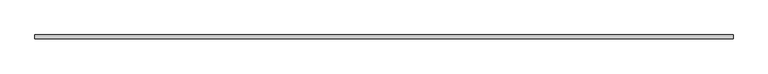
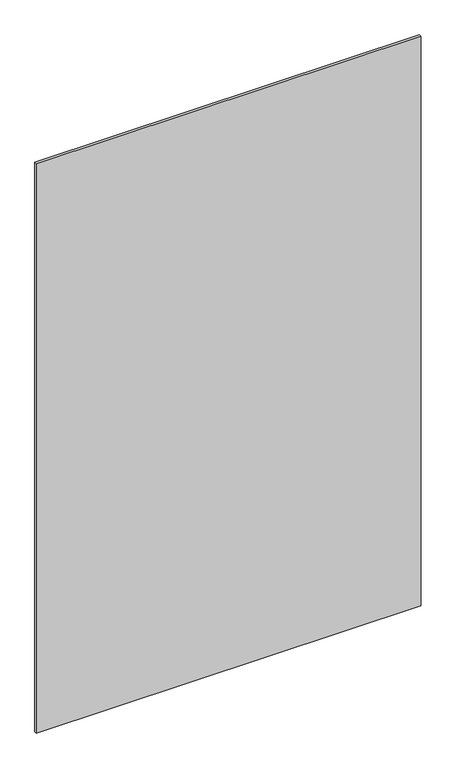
"""IFC4 building model written with IfcOpenShell, lengths in millimetres: plate geometry, 系統嵌板 : 玻璃 1.0cm."""

from ifc_helpers import new_model, si_unit, origin, origin_with_axes, place, context, project, spatial, polyline, outline, extrude, source, transform, mapped, element, save


def plate_d439ce56(model_context):
    return source(origin(), model_context, "Body", "SweptSolid", [
        extrude(outline(polyline([(887.5, -5.0), (-887.5, -5.0), (-887.5, 5.0), (887.5, 5.0), (887.5, -5.0)])), origin_with_axes(), (0.0, 0.0, 1.0), 2775.0),
    ])


if __name__ == "__main__":
    model = new_model("IFC4")
    model_context = context("Model", 3, world=origin())
    ifc_project = project(units=[si_unit("LENGTHUNIT", "METRE", prefix="MILLI")], contexts=[model_context])
    site = spatial("IfcSite", under=ifc_project)
    building = spatial("IfcBuilding", under=site)
    placement = place(None, origin())
    plate_shape = plate_d439ce56(model_context)
    element("IfcPlate", 1, ObjectType="系統嵌板 : 玻璃 1.0cm", at=placement, inside=building, context=model_context, shape_type="MappedRepresentation", body=[
        mapped(plate_shape, transform((0.0, 0.0, 0.0), x_axis=(1.0, 0.0, 0.0), y_axis=(0.0, 1.0, 0.0), z_axis=(0.0, 0.0, 1.0))),
    ])
    save(model, "model.ifc")
